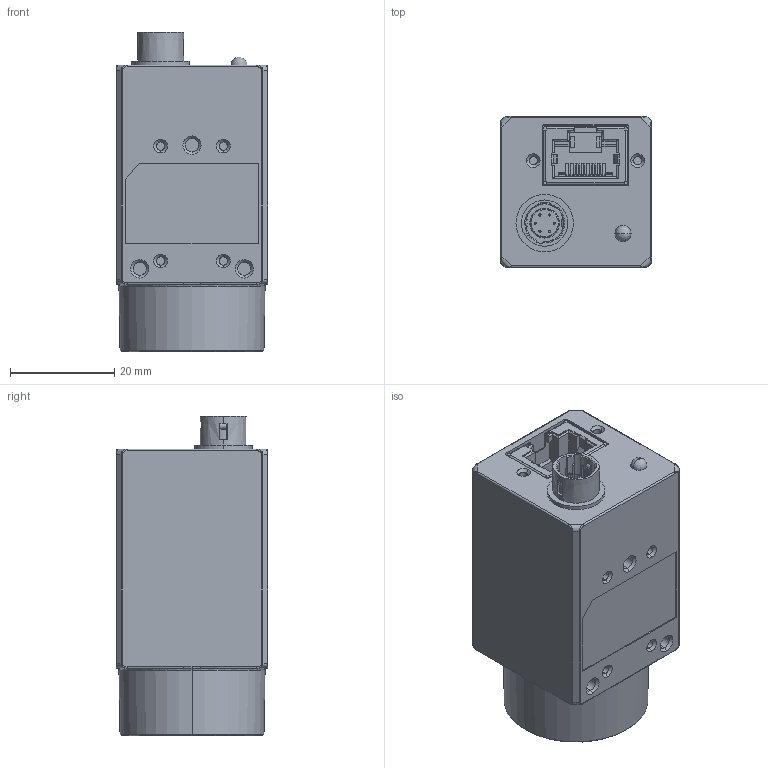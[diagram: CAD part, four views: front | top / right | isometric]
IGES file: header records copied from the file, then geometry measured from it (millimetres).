
Start section:  PTC IGES file: MV-CA003-20GMGC.igs
Global section: file name: MV-CA003-20GMGC.igs; native system: Creo Parametric by PTC Inc.; preprocessor: 2017260; author: wangyijun6; organization: Unknown; date: 20200309.200146; units: millimetre
Bounding box: 29 x 29 x 61.16 mm (x, y, z)
Volume: 34066.5 mm3; surface area: 14355.5 mm2
Topology: 1 solids, 1 shells, 1196 faces, 3515 edges, 2292 vertices
Faces by surface type: bspline 835, revolution 361
